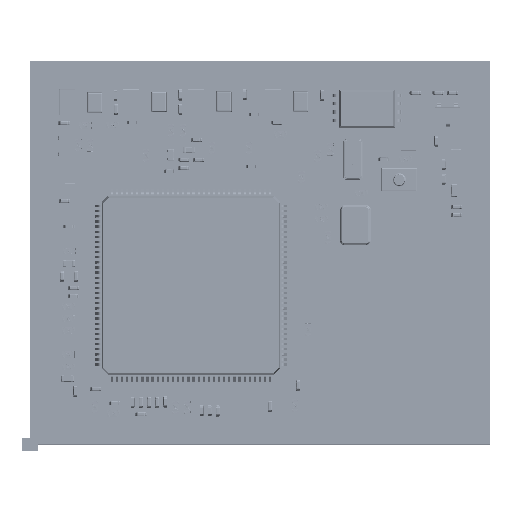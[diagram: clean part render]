
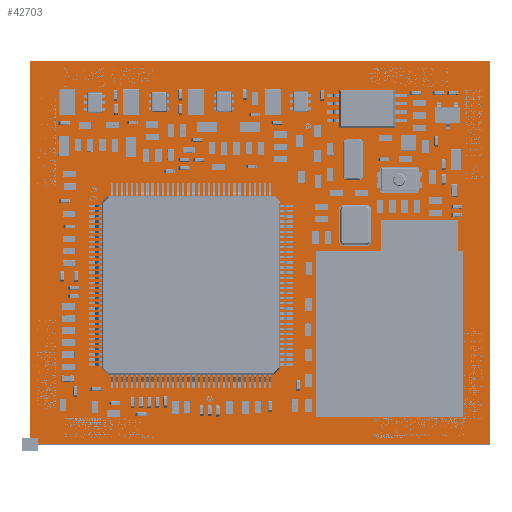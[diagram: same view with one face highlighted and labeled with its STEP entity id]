
A CAD part, top view. The second image highlights one B-rep face of the part: STEP entity #42703.
In plain terms, the highlighted planar face has unit normal (0, 0, 1).
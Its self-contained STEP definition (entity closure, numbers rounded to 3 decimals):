
#24060=FACE_OUTER_BOUND($,#28550,.F.);
#28550=EDGE_LOOP($,(#47251,#47252,#47253,#47254));
#33299=AXIS2_PLACEMENT_3D($,#127335,#106018,$);
#40082=PLANE($,#33299);
#42703=ADVANCED_FACE($,(#24060),#40082,.T.);
#47251=ORIENTED_EDGE($,*,*,#70234,.T.);
#47252=ORIENTED_EDGE($,*,*,#70235,.T.);
#47253=ORIENTED_EDGE($,*,*,#70236,.T.);
#47254=ORIENTED_EDGE($,*,*,#70237,.T.);
#70234=EDGE_CURVE($,#97816,#97817,#89768,.T.);
#70235=EDGE_CURVE($,#97817,#97818,#89769,.T.);
#70236=EDGE_CURVE($,#97818,#97819,#89770,.T.);
#70237=EDGE_CURVE($,#97819,#97816,#89771,.T.);
#81732=VECTOR($,#106065,30.);
#81733=VECTOR($,#106066,36.);
#81734=VECTOR($,#106067,30.);
#81735=VECTOR($,#106068,36.);
#89768=LINE($,#127334,#81732);
#89769=LINE($,#127335,#81733);
#89770=LINE($,#127336,#81734);
#89771=LINE($,#127337,#81735);
#97816=VERTEX_POINT($,#127334);
#97817=VERTEX_POINT($,#127335);
#97818=VERTEX_POINT($,#127336);
#97819=VERTEX_POINT($,#127337);
#106018=DIRECTION($,(0.,0.,1.));
#106065=DIRECTION($,(0.,-1.,0.));
#106066=DIRECTION($,(-1.,0.,0.));
#106067=DIRECTION($,(0.,1.,0.));
#106068=DIRECTION($,(1.,0.,0.));
#127334=CARTESIAN_POINT('',(36.,30.,0.001));
#127335=CARTESIAN_POINT('',(36.,0.,0.001));
#127336=CARTESIAN_POINT('',(0.,0.,0.001));
#127337=CARTESIAN_POINT('',(0.,30.,0.001));
